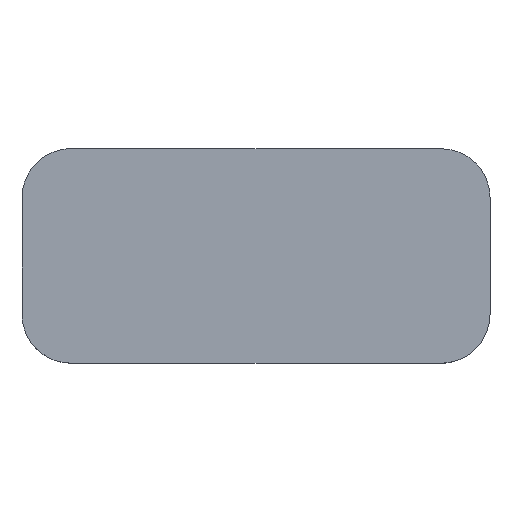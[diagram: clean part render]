
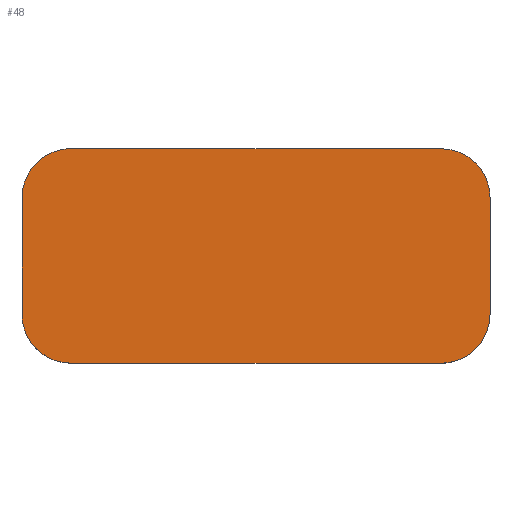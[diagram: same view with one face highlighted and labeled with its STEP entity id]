
A CAD part, top view. The second image highlights one B-rep face of the part: STEP entity #48.
In plain terms, the highlighted planar face has unit normal (0, 0, 1).
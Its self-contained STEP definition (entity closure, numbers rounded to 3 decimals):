
#48=ADVANCED_FACE('',(#67),#282,.T.);
#67=FACE_OUTER_BOUND('',#86,.T.);
#86=EDGE_LOOP('',(#138,#139,#140,#141,#142,#143,#144,#145));
#138=ORIENTED_EDGE('',*,*,#202,.F.);
#139=ORIENTED_EDGE('',*,*,#199,.F.);
#140=ORIENTED_EDGE('',*,*,#196,.F.);
#141=ORIENTED_EDGE('',*,*,#193,.F.);
#142=ORIENTED_EDGE('',*,*,#190,.F.);
#143=ORIENTED_EDGE('',*,*,#187,.F.);
#144=ORIENTED_EDGE('',*,*,#184,.F.);
#145=ORIENTED_EDGE('',*,*,#180,.F.);
#180=EDGE_CURVE('',#258,#259,#220,.T.);
#184=EDGE_CURVE('',#259,#262,#224,.T.);
#187=EDGE_CURVE('',#262,#264,#227,.T.);
#190=EDGE_CURVE('',#264,#266,#230,.T.);
#193=EDGE_CURVE('',#266,#268,#233,.T.);
#196=EDGE_CURVE('',#268,#270,#236,.T.);
#199=EDGE_CURVE('',#270,#272,#239,.T.);
#202=EDGE_CURVE('',#272,#258,#242,.T.);
#220=(
BOUNDED_CURVE()
B_SPLINE_CURVE(2,(#520,#521,#522),.UNSPECIFIED.,.F.,.F.)
B_SPLINE_CURVE_WITH_KNOTS((3,3),(-838.527,-788.223),
 .UNSPECIFIED.)
CURVE()
GEOMETRIC_REPRESENTATION_ITEM()
RATIONAL_B_SPLINE_CURVE((1.,0.707,1.))
REPRESENTATION_ITEM('')
);
#224=(
BOUNDED_CURVE()
B_SPLINE_CURVE(2,(#530,#531,#532),.UNSPECIFIED.,.F.,.F.)
B_SPLINE_CURVE_WITH_KNOTS((3,3),(-788.223,-711.907),
 .UNSPECIFIED.)
CURVE()
GEOMETRIC_REPRESENTATION_ITEM()
RATIONAL_B_SPLINE_CURVE((1.,1.,1.))
REPRESENTATION_ITEM('')
);
#227=(
BOUNDED_CURVE()
B_SPLINE_CURVE(2,(#538,#539,#540),.UNSPECIFIED.,.F.,.F.)
B_SPLINE_CURVE_WITH_KNOTS((3,3),(-711.907,-661.602),
 .UNSPECIFIED.)
CURVE()
GEOMETRIC_REPRESENTATION_ITEM()
RATIONAL_B_SPLINE_CURVE((1.,0.707,1.))
REPRESENTATION_ITEM('')
);
#230=(
BOUNDED_CURVE()
B_SPLINE_CURVE(2,(#546,#547,#548),.UNSPECIFIED.,.F.,.F.)
B_SPLINE_CURVE_WITH_KNOTS((3,3),(-661.602,-419.264),
 .UNSPECIFIED.)
CURVE()
GEOMETRIC_REPRESENTATION_ITEM()
RATIONAL_B_SPLINE_CURVE((1.,1.,1.))
REPRESENTATION_ITEM('')
);
#233=(
BOUNDED_CURVE()
B_SPLINE_CURVE(2,(#554,#555,#556),.UNSPECIFIED.,.F.,.F.)
B_SPLINE_CURVE_WITH_KNOTS((3,3),(-419.264,-368.959),
 .UNSPECIFIED.)
CURVE()
GEOMETRIC_REPRESENTATION_ITEM()
RATIONAL_B_SPLINE_CURVE((1.,0.707,1.))
REPRESENTATION_ITEM('')
);
#236=(
BOUNDED_CURVE()
B_SPLINE_CURVE(2,(#562,#563,#564),.UNSPECIFIED.,.F.,.F.)
B_SPLINE_CURVE_WITH_KNOTS((3,3),(-368.959,-292.643),
 .UNSPECIFIED.)
CURVE()
GEOMETRIC_REPRESENTATION_ITEM()
RATIONAL_B_SPLINE_CURVE((1.,1.,1.))
REPRESENTATION_ITEM('')
);
#239=(
BOUNDED_CURVE()
B_SPLINE_CURVE(2,(#570,#571,#572),.UNSPECIFIED.,.F.,.F.)
B_SPLINE_CURVE_WITH_KNOTS((3,3),(-292.643,-242.338),
 .UNSPECIFIED.)
CURVE()
GEOMETRIC_REPRESENTATION_ITEM()
RATIONAL_B_SPLINE_CURVE((1.,0.707,1.))
REPRESENTATION_ITEM('')
);
#242=(
BOUNDED_CURVE()
B_SPLINE_CURVE(2,(#578,#579,#580),.UNSPECIFIED.,.F.,.F.)
B_SPLINE_CURVE_WITH_KNOTS((3,3),(-242.338,0.),.UNSPECIFIED.)
CURVE()
GEOMETRIC_REPRESENTATION_ITEM()
RATIONAL_B_SPLINE_CURVE((1.,1.,1.))
REPRESENTATION_ITEM('')
);
#258=VERTEX_POINT('',#498);
#259=VERTEX_POINT('',#499);
#262=VERTEX_POINT('',#502);
#264=VERTEX_POINT('',#504);
#266=VERTEX_POINT('',#506);
#268=VERTEX_POINT('',#508);
#270=VERTEX_POINT('',#510);
#272=VERTEX_POINT('',#512);
#282=PLANE('',#321);
#321=AXIS2_PLACEMENT_3D('',#433,#329,$);
#329=DIRECTION('',(0.,0.,1.));
#433=CARTESIAN_POINT('',(-503.375,-87.749,470.008));
#498=CARTESIAN_POINT('',(-816.037,-70.203,470.008));
#499=CARTESIAN_POINT('',(-848.062,-38.178,470.008));
#502=CARTESIAN_POINT('',(-848.062,38.138,470.008));
#504=CARTESIAN_POINT('',(-816.037,70.163,470.008));
#506=CARTESIAN_POINT('',(-573.699,70.163,470.008));
#508=CARTESIAN_POINT('',(-541.674,38.138,470.008));
#510=CARTESIAN_POINT('',(-541.674,-38.178,470.008));
#512=CARTESIAN_POINT('',(-573.699,-70.203,470.008));
#520=CARTESIAN_POINT('',(-816.037,-70.203,470.008));
#521=CARTESIAN_POINT('',(-848.062,-70.203,470.008));
#522=CARTESIAN_POINT('',(-848.062,-38.178,470.008));
#530=CARTESIAN_POINT('',(-848.062,-38.178,470.008));
#531=CARTESIAN_POINT('',(-848.062,-0.02,470.008));
#532=CARTESIAN_POINT('',(-848.062,38.138,470.008));
#538=CARTESIAN_POINT('',(-848.062,38.138,470.008));
#539=CARTESIAN_POINT('',(-848.062,70.163,470.008));
#540=CARTESIAN_POINT('',(-816.037,70.163,470.008));
#546=CARTESIAN_POINT('',(-816.037,70.163,470.008));
#547=CARTESIAN_POINT('',(-694.868,70.163,470.008));
#548=CARTESIAN_POINT('',(-573.699,70.163,470.008));
#554=CARTESIAN_POINT('',(-573.699,70.163,470.008));
#555=CARTESIAN_POINT('',(-541.674,70.163,470.008));
#556=CARTESIAN_POINT('',(-541.674,38.138,470.008));
#562=CARTESIAN_POINT('',(-541.674,38.138,470.008));
#563=CARTESIAN_POINT('',(-541.674,-0.02,470.008));
#564=CARTESIAN_POINT('',(-541.674,-38.178,470.008));
#570=CARTESIAN_POINT('',(-541.674,-38.178,470.008));
#571=CARTESIAN_POINT('',(-541.674,-70.203,470.008));
#572=CARTESIAN_POINT('',(-573.699,-70.203,470.008));
#578=CARTESIAN_POINT('',(-573.699,-70.203,470.008));
#579=CARTESIAN_POINT('',(-694.868,-70.203,470.008));
#580=CARTESIAN_POINT('',(-816.037,-70.203,470.008));
